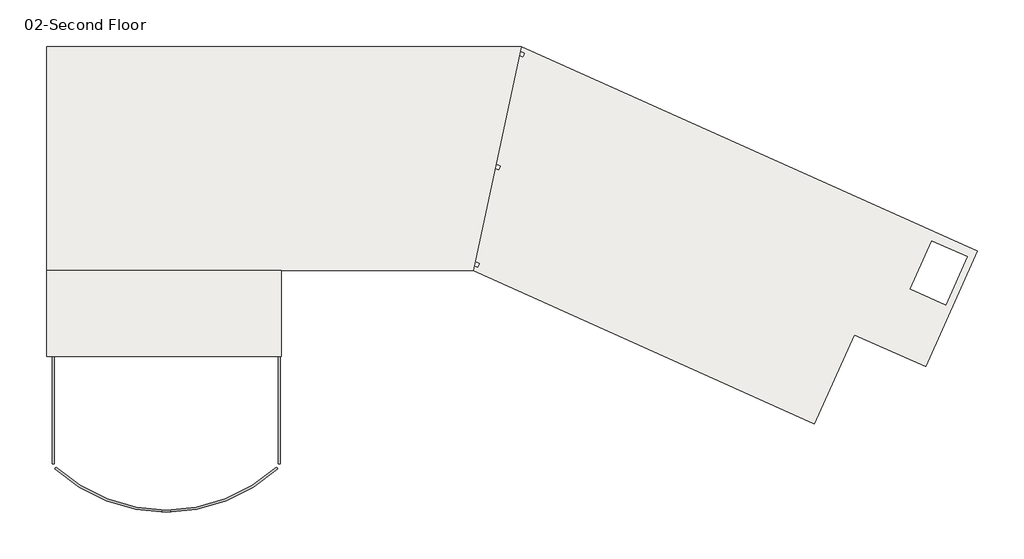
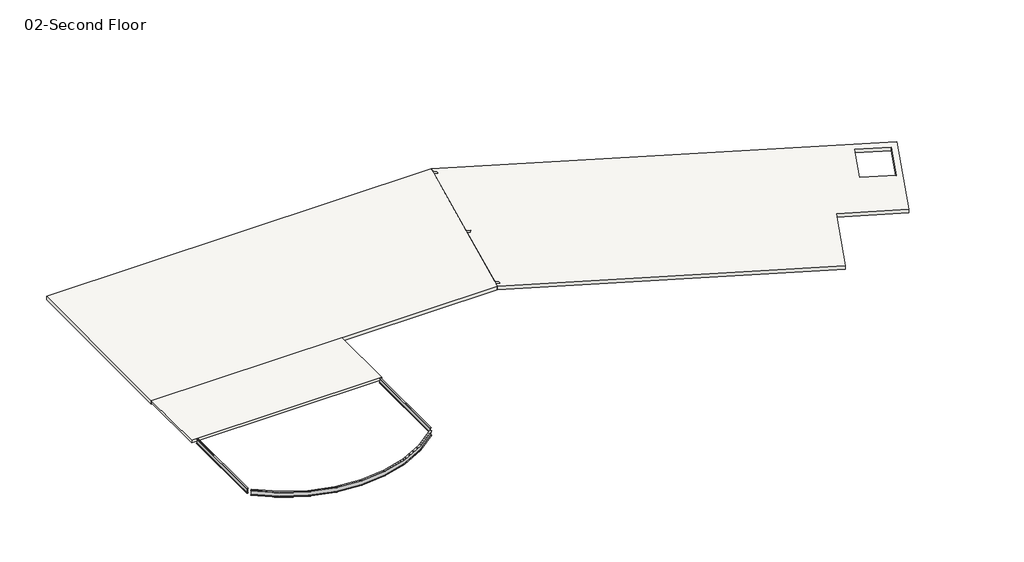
# One storey: 3 beams, 3 slabs.
"""IFC4 building model written with IfcOpenShell, lengths in millimetres."""

from ifc_helpers import new_model, si_unit, frame, origin, place, context, project, spatial, polyline, outline, extrude, faceted_brep, transform, mapped, element, save
from components import w_shapes_w16x26_e367a1e3, w_shapes_w16x26_bd6dae71, w_shapes_w16x26_8057c508

model = new_model("IFC4")

# Units and contexts
model_context = context("Model", 3, world=origin())
ifc_project = project(units=[si_unit("LENGTHUNIT", "METRE", prefix="MILLI")], contexts=[model_context])

# Site, building, storey
site = spatial("IfcSite", under=ifc_project)
building = spatial("IfcBuilding", under=site)
storey = spatial("IfcBuildingStorey", under=building, Name="02-Second Floor", Elevation=6705.6)

# Beams
placement = place(None, origin())
w_shapes_w16x26_shape = w_shapes_w16x26_e367a1e3(model_context)
element("IfcBeam", 1, ObjectType="W Shapes : W16X26", at=placement, inside=storey, context=model_context, shape_type="MappedRepresentation", body=[
    mapped(w_shapes_w16x26_shape, transform((14998.7, -23723.6, 6506.21), x_axis=(0.0, -1.0, 0.0), y_axis=(1.0, 0.0, 0.0), z_axis=(0.0, 0.0, 1.0))),
])
w_shapes_w16x26_2_shape = w_shapes_w16x26_bd6dae71(model_context)
element("IfcBeam", 2, ObjectType="W Shapes : W16X26", at=placement, inside=storey, context=model_context, shape_type="MappedRepresentation", body=[
    mapped(w_shapes_w16x26_2_shape, transform((0.0, -23723.6, 6506.21), x_axis=(0.0, 1.0, 0.0), y_axis=(-1.0, 0.0, 0.0), z_axis=(0.0, 0.0, 1.0))),
])
w_shapes_w16x26_3_shape = w_shapes_w16x26_8057c508(model_context)
element("IfcBeam", 3, ObjectType="W Shapes : W16X26", at=placement, inside=storey, context=model_context, shape_type="MappedRepresentation", body=[
    mapped(w_shapes_w16x26_3_shape, transform((14998.7, -27444.7, 6506.21), x_axis=(-0.7227923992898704, -0.691065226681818, 0.0), y_axis=(0.691065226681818, -0.7227923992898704, 0.0), z_axis=(0.0, 0.0, 1.0))),
])

# Slabs
element("IfcSlab", 4, ObjectType="RC Composite Slab 8\"", at=placement, inside=storey, context=model_context, shape_type="SweptSolid", body=[
    extrude(outline(polyline([(15151.1, -20154.9), (-457.2, -20154.9), (-457.2, -14452.6), (15151.1, -14452.6), (15151.1, -20154.9)])), frame((0.0, 0.0, 6502.4), z_axis=(0.0, 0.0, 1.0), x_axis=(1.0, 0.0, 0.0)), (0.0, 0.0, 1.0), 203.2),
])
element("IfcSlab", 5, ObjectType="RC Slab 12\"", at=placement, inside=storey, context=model_context, shape_type="Brep", body=[
    faceted_brep([(-457.2, 457.2, 6400.8), (31098.7387393, 457.2, 6400.8), (27903.7815965, -14452.6, 6400.8), (-457.2, -14452.6, 6400.8), (-457.2, 457.2, 6705.6), (-457.2, -14452.6, 6705.6), (15151.1, -14452.6, 6705.6), (27903.7815965, -14452.6, 6705.6), (31098.7387393, 457.2, 6705.6), (-457.2, -14452.6, 6502.4)], [[[0, 1, 2, 3]], [[4, 5, 6, 7, 8]], [[1, 0, 4, 8]], [[2, 1, 8, 7]], [[3, 2, 7, 6, 5, 9]], [[0, 3, 9, 5, 4]]]),
])
element("IfcSlab", 6, ObjectType="RC Slab 12\"", at=placement, inside=storey, context=model_context, shape_type="Brep", body=[
    faceted_brep([(61413.0546278, -13159.9258537, 6400.8), (57962.8673107, -20840.7, 6400.8), (53236.2370668, -18717.5078049, 6400.8), (50577.0429205, -24637.3804878, 6400.8), (27903.7815965, -14452.6, 6400.8), (27969.0988162, -14147.786308, 6400.8), (28217.3432689, -14259.3121951, 6400.8), (28342.2369275, -13981.275122, 6400.8), (28034.4045592, -13843.0124873, 6400.8), (29359.7488162, -7658.086308, 6400.8), (29607.9932689, -7769.6121951, 6400.8), (29732.8869275, -7491.575122, 6400.8), (29425.0545592, -7353.3124873, 6400.8), (30968.1131019, -152.386308, 6400.8), (31216.3575546, -263.9121951, 6400.8), (31341.2512132, 14.124878, 6400.8), (31033.4188449, 152.3875127, 6400.8), (31098.7387393, 457.2, 6400.8), (59309.9346278, -16726.0858537, 6400.8), (60746.211701, -13528.6595122, 6400.8), (58382.896579, -12467.0634146, 6400.8), (56946.6195059, -15664.4897561, 6400.8), (57962.8673107, -20840.7, 6705.6), (61413.0546278, -13159.9258537, 6705.6), (31098.7387393, 457.2, 6705.6), (31033.4244536, 152.4, 6705.6), (31341.2512132, 14.124878, 6705.6), (31216.3575546, -263.9121951, 6705.6), (30968.1131019, -152.386308, 6705.6), (29425.0601679, -7353.3, 6705.6), (29732.8869275, -7491.575122, 6705.6), (29607.9932689, -7769.6121951, 6705.6), (29359.7488162, -7658.086308, 6705.6), (28034.4101679, -13843.0, 6705.6), (28342.2369275, -13981.275122, 6705.6), (28217.3432689, -14259.3121951, 6705.6), (27969.0988162, -14147.786308, 6705.6), (27903.7815965, -14452.6, 6705.6), (50577.0429205, -24637.3804878, 6705.6), (53236.2370668, -18717.5078049, 6705.6), (60746.211701, -13528.6595122, 6705.6), (59309.9346278, -16726.0858537, 6705.6), (56946.6195059, -15664.4897561, 6705.6), (58382.896579, -12467.0634146, 6705.6)], [[[0, 1, 2, 3, 4, 5, 6, 7, 8, 9, 10, 11, 12, 13, 14, 15, 16, 17], [18, 19, 20, 21]], [[22, 23, 24, 25, 26, 27, 28, 29, 30, 31, 32, 33, 34, 35, 36, 37, 38, 39], [40, 41, 42, 43]], [[1, 0, 23, 22]], [[2, 1, 22, 39]], [[3, 2, 39, 38]], [[4, 3, 38, 37]], [[4, 37, 36, 5]], [[24, 17, 16, 25]], [[8, 33, 32, 9]], [[28, 13, 12, 29]], [[0, 17, 24, 23]], [[7, 34, 33, 8]], [[34, 7, 6, 35]], [[35, 6, 5, 36]], [[15, 26, 25, 16]], [[26, 15, 14, 27]], [[27, 14, 13, 28]], [[11, 30, 29, 12]], [[30, 11, 10, 31]], [[31, 10, 9, 32]], [[18, 41, 40, 19]], [[19, 40, 43, 20]], [[20, 43, 42, 21]], [[41, 18, 21, 42]]]),
])

save(model, "model.ifc")
